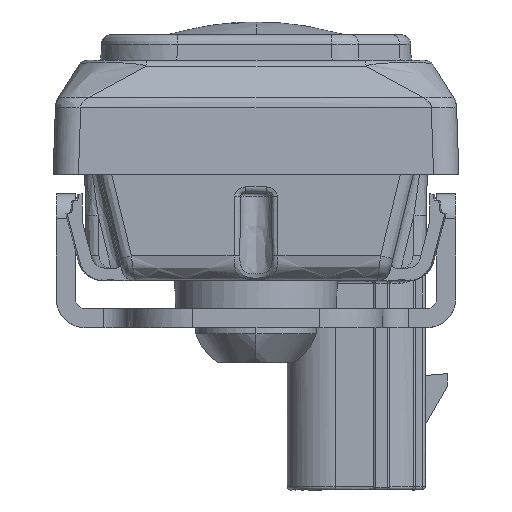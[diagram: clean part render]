
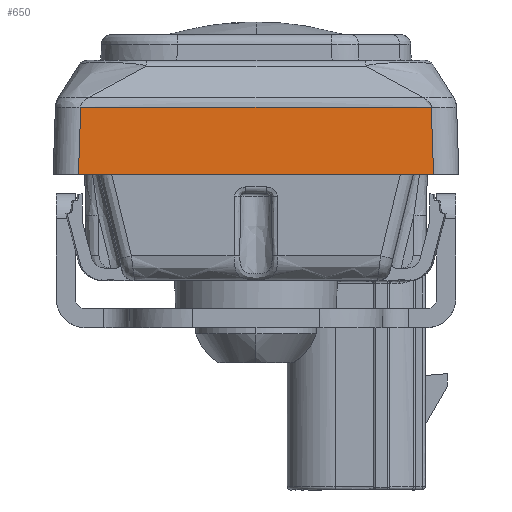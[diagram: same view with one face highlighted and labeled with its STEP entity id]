
A CAD part, front view. The second image highlights one B-rep face of the part: STEP entity #650.
In plain terms, the highlighted planar face has unit normal (0, -0.999, 0.035).
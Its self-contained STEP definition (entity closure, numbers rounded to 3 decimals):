
#650=ADVANCED_FACE('',(#1484),#12134,.T.);
#1484=FACE_OUTER_BOUND('',#2308,.T.);
#2308=EDGE_LOOP('',(#5440,#5441,#5442,#5443));
#5440=ORIENTED_EDGE('',*,*,#7880,.T.);
#5441=ORIENTED_EDGE('',*,*,#7829,.F.);
#5442=ORIENTED_EDGE('',*,*,#7865,.F.);
#5443=ORIENTED_EDGE('',*,*,#7863,.T.);
#7829=EDGE_CURVE('',#11162,#11163,#9959,.T.);
#7863=EDGE_CURVE('',#11169,#11165,#9127,.T.);
#7865=EDGE_CURVE('',#11169,#11162,#9129,.T.);
#7880=EDGE_CURVE('',#11165,#11163,#9144,.T.);
#9127=(
BOUNDED_CURVE()
B_SPLINE_CURVE(3,(#26236,#26237,#26238,#26239),.UNSPECIFIED.,.F.,.F.)
B_SPLINE_CURVE_WITH_KNOTS((4,4),(0.185,27.818),
 .UNSPECIFIED.)
CURVE()
GEOMETRIC_REPRESENTATION_ITEM()
RATIONAL_B_SPLINE_CURVE((1.,1.,1.,1.))
REPRESENTATION_ITEM('')
);
#9129=(
BOUNDED_CURVE()
B_SPLINE_CURVE(1,(#26244,#26245),.UNSPECIFIED.,.F.,.F.)
B_SPLINE_CURVE_WITH_KNOTS((2,2),(-2.892,-0.07),
 .UNSPECIFIED.)
CURVE()
GEOMETRIC_REPRESENTATION_ITEM()
RATIONAL_B_SPLINE_CURVE((1.,1.))
REPRESENTATION_ITEM('')
);
#9144=(
BOUNDED_CURVE()
B_SPLINE_CURVE(1,(#26290,#26291),.UNSPECIFIED.,.F.,.F.)
B_SPLINE_CURVE_WITH_KNOTS((2,2),(-2.892,-0.07),
 .UNSPECIFIED.)
CURVE()
GEOMETRIC_REPRESENTATION_ITEM()
RATIONAL_B_SPLINE_CURVE((1.,1.))
REPRESENTATION_ITEM('')
);
#9959=B_SPLINE_CURVE_WITH_KNOTS('',1,(#26004,#26005),.UNSPECIFIED.,.F.,
 .F.,(2,2),(18.605,46.607),.UNSPECIFIED.);
#11162=VERTEX_POINT('',#20072);
#11163=VERTEX_POINT('',#20073);
#11165=VERTEX_POINT('',#20075);
#11169=VERTEX_POINT('',#20079);
#12134=PLANE('',#12563);
#12563=AXIS2_PLACEMENT_3D('',#18330,#12923,$);
#12923=DIRECTION('',(0.,-0.999,0.035));
#18330=CARTESIAN_POINT('',(-14.001,-95.94,2.291));
#20072=CARTESIAN_POINT('',(14.001,-96.125,-3.));
#20073=CARTESIAN_POINT('',(-14.001,-96.125,-3.));
#20075=CARTESIAN_POINT('',(-13.816,-95.94,2.291));
#20079=CARTESIAN_POINT('',(13.816,-95.94,2.291));
#26004=CARTESIAN_POINT('',(14.001,-96.125,-3.));
#26005=CARTESIAN_POINT('',(-14.001,-96.125,-3.));
#26236=CARTESIAN_POINT('',(13.816,-95.94,2.291));
#26237=CARTESIAN_POINT('',(4.605,-95.94,2.291));
#26238=CARTESIAN_POINT('',(-4.605,-95.94,2.291));
#26239=CARTESIAN_POINT('',(-13.816,-95.94,2.291));
#26244=CARTESIAN_POINT('',(13.816,-95.94,2.291));
#26245=CARTESIAN_POINT('',(14.001,-96.125,-3.));
#26290=CARTESIAN_POINT('',(-13.816,-95.94,2.291));
#26291=CARTESIAN_POINT('',(-14.001,-96.125,-3.));
